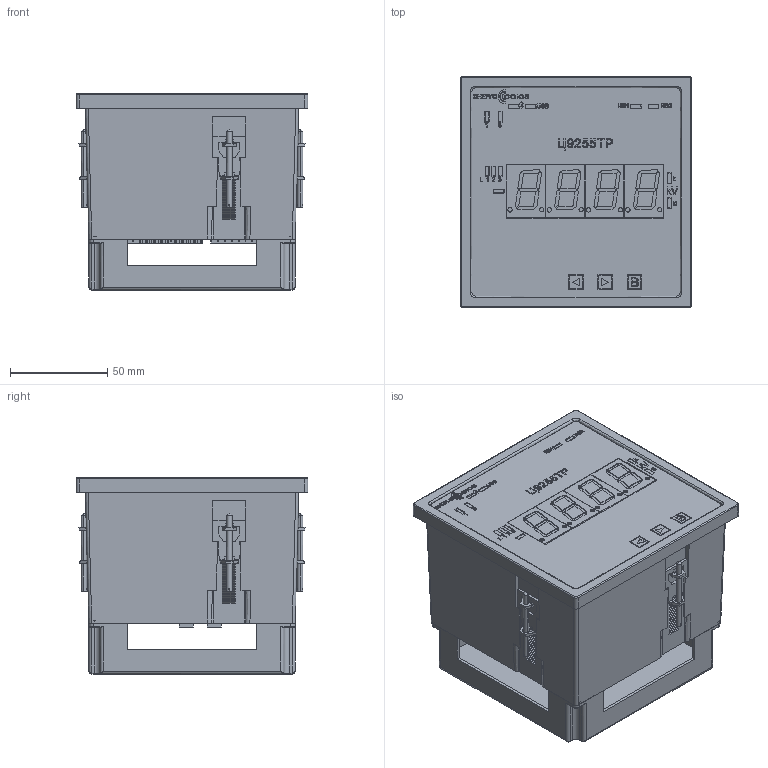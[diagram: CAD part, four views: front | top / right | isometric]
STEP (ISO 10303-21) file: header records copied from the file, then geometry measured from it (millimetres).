
FILE_DESCRIPTION (( 'STEP AP214' ), '1' );
FILE_NAME ('ñ9255tr_1c_120x120x103.STEP', '2025-10-20T07:42:57', ( '' ), ( '' ), 'SwSTEP 2.0', 'SolidWorks 2021', '' );
FILE_SCHEMA (( 'AUTOMOTIVE_DESIGN' ));
Length unit declared in the file: millimetre
Products named in the file (44): ñ9255tr_1c_120x120x103; ñêîáà-1; border_for_body_elc_120x120x103; Êîïèÿ mark-FYS-8011^Êîïèÿ (6) Êîïèÿ indicator-FYS-8011_ñ9255tr_1c_step; Êîïèÿ (2) no-color-led-5^ñ9255tr_1c; Êîïèÿ Ñáîðêà ñêîáà ÖÔ9285^ñ9255tr_1c_step; Êîïèÿ mark-FYS-8011^Êîïèÿ (8) Êîïèÿ indicator-FYS-8011_ñ9255tr_1c_step; Êîïèÿ 15EDGVC-3.5-sidewall^15EDGRC-3.5-04P; Êîïèÿ mark-FYS-8011^Êîïèÿ (7) Êîïèÿ indicator-FYS-8011_ñ9255tr_1c_step; RS-485-label^ñ9255tr_1c_step; orange-led_step; Ñêîáà ÖÔ9285; 15EDGRC-3.5-04P; Êîïèÿ Êîïèÿ Êîïèÿ ïåðåäíÿÿ_ïàíåëü^ñ9255tr_1c_step; indicator-FYS-8011; green-led-5_step; DG271R-body; Êîïèÿ (8) Êîïèÿ indicator-FYS-8011^ñ9255tr_1c_step; 櫻蠉錪2^DG271R-5.0-2-x; Êîïèÿ 15EDGRC-3.5-01P^Êîïèÿ 15EDGRC-3.5-06P_ñ9255tr_1c; 15EDGRC-3.5-06P; body_elc_120x120x103_step; Êîïèÿ no-color-led-5^ñ9255tr_1c; Êîïèÿ mark-FYS-8011^Êîïèÿ (5) Êîïèÿ indicator-FYS-8011_ñ9255tr_1c_step; Êîïèÿ 15EDGRC-3.5-01P^15EDGRC-3.5-04P; blue-led-5_step; 櫻蠉錪5^DG271R-5.0-2-x; 櫻蠉錪6^DG271R-5.0-2-x; Êîïèÿ 15EDGRC-3.5-06P^ñ9255tr_1c; Êîïèÿ (7) Êîïèÿ indicator-FYS-8011^ñ9255tr_1c_step; main-upper-label^ñ9255tr_1c_step; DG271R-5.0-2-x; 3-input-label^ñ9255tr_1c_step; Êîïèÿ (5) Êîïèÿ indicator-FYS-8011^ñ9255tr_1c_step; Êîïèÿ 15EDGVC-3.5-sidewall^Êîïèÿ 15EDGRC-3.5-06P_ñ9255tr_1c; ñêîáà-2; 15EDGRC-3.5-01P; indicator-FYS-8011_step; Êîïèÿ Êîïèÿ red-led-with-border^ñ9255tr_1c_step; User Library-Micro USB_typeB_10118192-0001LF FCI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
Assembly tree (74 placements, depth 3):
  ñ9255tr_1c_120x120x103
    body_elc_120x120x103_step
    Êîïèÿ Êîïèÿ Êîïèÿ ïåðåäíÿÿ_ïàíåëü^ñ9255tr_1c_step
    border_for_body_elc_120x120x103
    Êîïèÿ Ñáîðêà ñêîáà ÖÔ9285^ñ9255tr_1c_step  x4
      Ñêîáà ÖÔ9285
      Âèíò äëÿ ñêîáû ÖÔ9285_step
    Çàäíÿÿ êðûøêà ÖÔ9285
    Êîïèÿ no-color-led-5^ñ9255tr_1c  x3
    Êîïèÿ Êîïèÿ red-led-with-border^ñ9255tr_1c_step
    blue-led-5_step
    green-led-5_step  x3
    Êîïèÿ (2) no-color-led-5^ñ9255tr_1c  x3
    orange-led_step
    Êîïèÿ (5) Êîïèÿ indicator-FYS-8011^ñ9255tr_1c_step
      indicator-FYS-8011
    Êîïèÿ (6) Êîïèÿ indicator-FYS-8011^ñ9255tr_1c_step
      indicator-FYS-8011
    Êîïèÿ (7) Êîïèÿ indicator-FYS-8011^ñ9255tr_1c_step
      indicator-FYS-8011_step
    Êîïèÿ (8) Êîïèÿ indicator-FYS-8011^ñ9255tr_1c_step
      indicator-FYS-8011_step
    15EDGRC-3.5-04P  x2
      Êîïèÿ 15EDGRC-3.5-01P^15EDGRC-3.5-04P
      Êîïèÿ 15EDGVC-3.5-sidewall^15EDGRC-3.5-04P
    Êîïèÿ 15EDGRC-3.5-06P^ñ9255tr_1c  x2
      Êîïèÿ 15EDGRC-3.5-01P^Êîïèÿ 15EDGRC-3.5-06P_ñ9255tr_1c
      Êîïèÿ 15EDGVC-3.5-sidewall^Êîïèÿ 15EDGRC-3.5-06P_ñ9255tr_1c
    15EDGRC-3.5-06P
      15EDGRC-3.5-01P  x6
      15EDGVC-3.5-sidewall  x2
    DG271R-5.0-2-x  x2
      DG271R-body
      ñêîáà-1
      ñêîáà-2
      櫻蠉錪5^DG271R-5.0-2-x
      櫻蠉錪2^DG271R-5.0-2-x
    RS-485-label^ñ9255tr_1c_step
    3-input-label^ñ9255tr_1c_step
    main-upper-label^ñ9255tr_1c_step
    User Library-Micro USB_typeB_10118192-0001LF FCI
  Êîïèÿ mark-FYS-8011^Êîïèÿ (6) Êîïèÿ indicator-FYS-8011_ñ9255tr_1c_step
  Êîïèÿ mark-FYS-8011^Êîïèÿ (8) Êîïèÿ indicator-FYS-8011_ñ9255tr_1c_step
  Êîïèÿ mark-FYS-8011^Êîïèÿ (7) Êîïèÿ indicator-FYS-8011_ñ9255tr_1c_step
  Êîïèÿ mark-FYS-8011^Êîïèÿ (5) Êîïèÿ indicator-FYS-8011_ñ9255tr_1c_step
Bounding box: 119 x 119 x 100.8 mm (x, y, z)
Volume: 164855 mm3; surface area: 214083.3 mm2
Topology: 244 solids, 244 shells, 7726 faces, 19756 edges, 12760 vertices
Faces by surface type: plane 5205, cylinder 1423, bspline 898, cone 144, sphere 44, torus 12
Entity records: 213269 total; most frequent: CARTESIAN_POINT 80134, ORIENTED_EDGE 24526, DIRECTION 18395, EDGE_CURVE 12263, LINE 8309, VECTOR 8309, VERTEX_POINT 8018, EDGE_LOOP 5125
